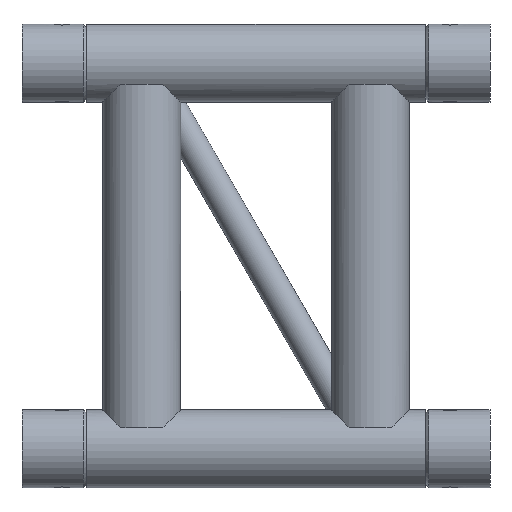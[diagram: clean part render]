
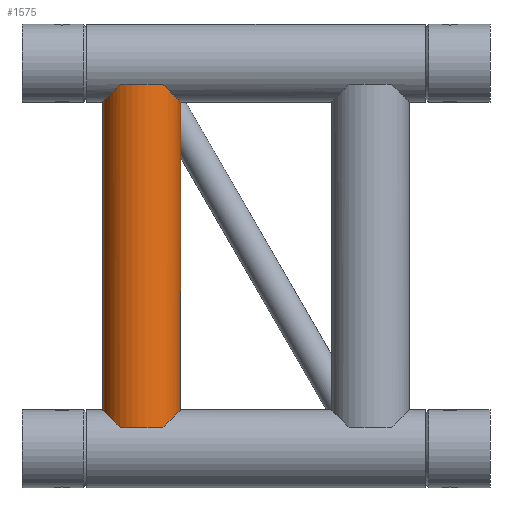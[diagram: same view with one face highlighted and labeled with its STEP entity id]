
A CAD part, front view. The second image highlights one B-rep face of the part: STEP entity #1575.
In plain terms, the highlighted cylindrical face has radius 24.15 mm (diameter 48.3 mm), a full revolution.
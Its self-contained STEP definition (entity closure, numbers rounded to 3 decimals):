
#22=B_SPLINE_CURVE_WITH_KNOTS('',3,(#2406,#2407,#2408,#2409,#2410,#2411,
#2412,#2413,#2414,#2415,#2416,#2417,#2418,#2419,#2420,#2421,#2422,#2423,
#2424,#2425,#2426,#2427),.UNSPECIFIED.,.F.,.F.,(4,2,2,2,2,2,2,2,2,2,4),
(2.68,3.039,3.447,3.855,4.02,
4.186,4.352,4.517,4.867,5.217,
5.696),.UNSPECIFIED.);
#67=ELLIPSE('',#1694,34.153,24.15);
#68=ELLIPSE('',#1695,34.153,24.15);
#69=ELLIPSE('',#1696,34.153,24.15);
#70=ELLIPSE('',#1697,34.153,24.15);
#71=ELLIPSE('',#1698,41.912,24.15);
#94=FACE_BOUND('',#334,.T.);
#183=CYLINDRICAL_SURFACE('',#1693,24.15);
#228=FACE_OUTER_BOUND('',#333,.T.);
#333=EDGE_LOOP('',(#1024,#1025,#1026,#1027));
#334=EDGE_LOOP('',(#1028,#1029,#1030,#1031,#1032,#1033));
#517=CIRCLE('',#1685,24.15);
#518=CIRCLE('',#1687,24.15);
#519=CIRCLE('',#1689,24.15);
#520=CIRCLE('',#1692,24.15);
#665=VERTEX_POINT('',#2381);
#666=VERTEX_POINT('',#2382);
#667=VERTEX_POINT('',#2386);
#668=VERTEX_POINT('',#2387);
#669=VERTEX_POINT('',#2391);
#670=VERTEX_POINT('',#2392);
#672=VERTEX_POINT('',#2397);
#673=VERTEX_POINT('',#2399);
#674=VERTEX_POINT('',#2405);
#675=VERTEX_POINT('',#2429);
#816=EDGE_CURVE('',#665,#666,#517,.T.);
#818=EDGE_CURVE('',#667,#668,#518,.T.);
#820=EDGE_CURVE('',#669,#670,#519,.T.);
#823=EDGE_CURVE('',#673,#672,#520,.T.);
#824=EDGE_CURVE('',#668,#665,#67,.T.);
#825=EDGE_CURVE('',#666,#667,#68,.T.);
#826=EDGE_CURVE('',#672,#674,#22,.T.);
#827=EDGE_CURVE('',#670,#673,#69,.T.);
#828=EDGE_CURVE('',#675,#669,#70,.T.);
#829=EDGE_CURVE('',#674,#675,#71,.T.);
#1024=ORIENTED_EDGE('',*,*,#824,.F.);
#1025=ORIENTED_EDGE('',*,*,#818,.F.);
#1026=ORIENTED_EDGE('',*,*,#825,.F.);
#1027=ORIENTED_EDGE('',*,*,#816,.F.);
#1028=ORIENTED_EDGE('',*,*,#826,.F.);
#1029=ORIENTED_EDGE('',*,*,#823,.F.);
#1030=ORIENTED_EDGE('',*,*,#827,.F.);
#1031=ORIENTED_EDGE('',*,*,#820,.F.);
#1032=ORIENTED_EDGE('',*,*,#828,.F.);
#1033=ORIENTED_EDGE('',*,*,#829,.F.);
#1575=ADVANCED_FACE('',(#228,#94),#183,.T.);
#1685=AXIS2_PLACEMENT_3D('',#2384,#1928,#1929);
#1687=AXIS2_PLACEMENT_3D('',#2389,#1933,#1934);
#1689=AXIS2_PLACEMENT_3D('',#2394,#1938,#1939);
#1692=AXIS2_PLACEMENT_3D('',#2401,#1945,#1946);
#1693=AXIS2_PLACEMENT_3D('',#2402,#1947,#1948);
#1694=AXIS2_PLACEMENT_3D('',#2403,#1949,#1950);
#1695=AXIS2_PLACEMENT_3D('',#2404,#1951,#1952);
#1696=AXIS2_PLACEMENT_3D('',#2428,#1953,#1954);
#1697=AXIS2_PLACEMENT_3D('',#2430,#1955,#1956);
#1698=AXIS2_PLACEMENT_3D('',#2431,#1957,#1958);
#1928=DIRECTION('center_axis',(0.,0.,-1.));
#1929=DIRECTION('ref_axis',(-1.,0.,0.));
#1933=DIRECTION('center_axis',(0.,0.,-1.));
#1934=DIRECTION('ref_axis',(-1.,0.,0.));
#1938=DIRECTION('center_axis',(0.,0.,1.));
#1939=DIRECTION('ref_axis',(-1.,0.,0.));
#1945=DIRECTION('center_axis',(0.,0.,1.));
#1946=DIRECTION('ref_axis',(-1.,0.,0.));
#1947=DIRECTION('center_axis',(0.,0.,1.));
#1948=DIRECTION('ref_axis',(-1.,0.,0.));
#1949=DIRECTION('center_axis',(0.707,0.,-0.707));
#1950=DIRECTION('ref_axis',(-0.707,0.,-0.707));
#1951=DIRECTION('center_axis',(-0.707,0.,-0.707));
#1952=DIRECTION('ref_axis',(-0.707,0.,0.707));
#1953=DIRECTION('center_axis',(0.707,0.,0.707));
#1954=DIRECTION('ref_axis',(-0.707,0.,0.707));
#1955=DIRECTION('center_axis',(-0.707,0.,0.707));
#1956=DIRECTION('ref_axis',(-0.707,0.,-0.707));
#1957=DIRECTION('center_axis',(0.,0.817,-0.576));
#1958=DIRECTION('ref_axis',(0.,-0.576,-0.817));
#2381=CARTESIAN_POINT('',(87.3,-20.256,-225.85));
#2382=CARTESIAN_POINT('',(61.,-20.256,-225.85));
#2384=CARTESIAN_POINT('Origin',(74.15,0.,-225.85));
#2386=CARTESIAN_POINT('',(61.,20.256,-225.85));
#2387=CARTESIAN_POINT('',(87.3,20.256,-225.85));
#2389=CARTESIAN_POINT('Origin',(74.15,0.,-225.85));
#2391=CARTESIAN_POINT('',(61.,-20.256,-13.15));
#2392=CARTESIAN_POINT('',(87.3,-20.256,-13.15));
#2394=CARTESIAN_POINT('Origin',(74.15,0.,-13.15));
#2397=CARTESIAN_POINT('',(69.566,23.711,-13.15));
#2399=CARTESIAN_POINT('',(87.3,20.256,-13.15));
#2401=CARTESIAN_POINT('Origin',(74.15,0.,-13.15));
#2402=CARTESIAN_POINT('Origin',(74.15,0.,-225.85));
#2403=CARTESIAN_POINT('Origin',(74.15,0.,-239.));
#2404=CARTESIAN_POINT('Origin',(74.15,0.,-239.));
#2405=CARTESIAN_POINT('',(54.872,14.545,-20.759));
#2406=CARTESIAN_POINT('Ctrl Pts',(69.566,23.711,-13.15));
#2407=CARTESIAN_POINT('Ctrl Pts',(69.855,23.767,-14.351));
#2408=CARTESIAN_POINT('Ctrl Pts',(70.,23.791,-15.575));
#2409=CARTESIAN_POINT('Ctrl Pts',(70.,23.791,-18.133));
#2410=CARTESIAN_POINT('Ctrl Pts',(69.805,23.76,-19.606));
#2411=CARTESIAN_POINT('Ctrl Pts',(68.924,23.582,-22.355));
#2412=CARTESIAN_POINT('Ctrl Pts',(68.242,23.435,-23.633));
#2413=CARTESIAN_POINT('Ctrl Pts',(66.993,23.068,-25.034));
#2414=CARTESIAN_POINT('Ctrl Pts',(66.582,22.938,-25.41));
#2415=CARTESIAN_POINT('Ctrl Pts',(65.685,22.623,-26.039));
#2416=CARTESIAN_POINT('Ctrl Pts',(65.2,22.437,-26.293));
#2417=CARTESIAN_POINT('Ctrl Pts',(64.199,22.011,-26.644));
#2418=CARTESIAN_POINT('Ctrl Pts',(63.682,21.771,-26.743));
#2419=CARTESIAN_POINT('Ctrl Pts',(62.666,21.252,-26.794));
#2420=CARTESIAN_POINT('Ctrl Pts',(62.167,20.975,-26.746));
#2421=CARTESIAN_POINT('Ctrl Pts',(60.719,20.104,-26.438));
#2422=CARTESIAN_POINT('Ctrl Pts',(59.897,19.519,-26.03));
#2423=CARTESIAN_POINT('Ctrl Pts',(58.405,18.336,-25.041));
#2424=CARTESIAN_POINT('Ctrl Pts',(57.74,17.739,-24.451));
#2425=CARTESIAN_POINT('Ctrl Pts',(56.282,16.29,-22.894));
#2426=CARTESIAN_POINT('Ctrl Pts',(55.539,15.43,-21.871));
#2427=CARTESIAN_POINT('Ctrl Pts',(54.872,14.545,-20.759));
#2428=CARTESIAN_POINT('Origin',(74.15,0.,0.));
#2429=CARTESIAN_POINT('',(57.303,17.304,-16.847));
#2430=CARTESIAN_POINT('Origin',(74.15,0.,0.));
#2431=CARTESIAN_POINT('Origin',(74.15,0.,-41.39));
